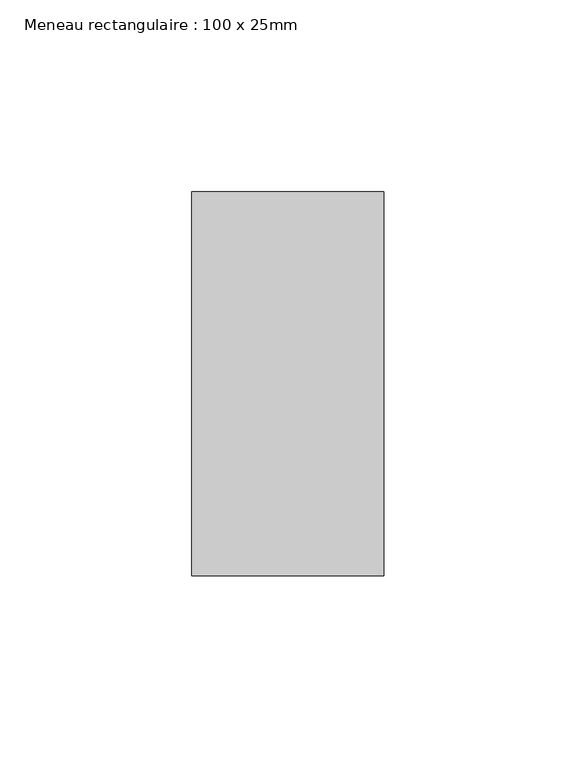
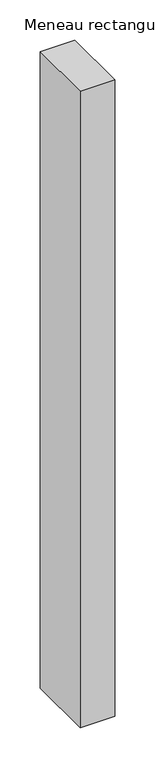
"""IFC4 building model written with IfcOpenShell, lengths in millimetres: member geometry, Meneau rectangulaire : 100 x 25mm."""

from ifc_helpers import new_model, si_unit, frame, origin, place, context, project, spatial, polyline, outline, extrude, source, transform, mapped, element, save


def meneau_rectangulaire_100_x_25mm_93c40c7f(model_context):
    return source(origin(), model_context, "Body", "SweptSolid", [
        extrude(outline(polyline([(0.0, 50.0), (0.0, -50.0), (-50.0, -50.0), (-50.0, 50.0), (0.0, 50.0)])), frame((0.0, 0.0, -970.9537802), z_axis=(0.0, 0.0, 1.0), x_axis=(1.0, 0.0, 0.0)), (0.0, 0.0, 1.0), 970.9537802),
    ])


if __name__ == "__main__":
    model = new_model("IFC4")
    model_context = context("Model", 3, world=origin())
    ifc_project = project(units=[si_unit("LENGTHUNIT", "METRE", prefix="MILLI")], contexts=[model_context])
    site = spatial("IfcSite", under=ifc_project)
    building = spatial("IfcBuilding", under=site)
    placement = place(None, origin())
    meneau_rectangulaire_100_x_25mm_shape = meneau_rectangulaire_100_x_25mm_93c40c7f(model_context)
    element("IfcMember", 1, ObjectType="Meneau rectangulaire : 100 x 25mm", at=placement, inside=building, context=model_context, shape_type="MappedRepresentation", body=[
        mapped(meneau_rectangulaire_100_x_25mm_shape, transform((0.0, 0.0, 0.0), x_axis=(1.0, 0.0, 0.0), y_axis=(0.0, 1.0, 0.0), z_axis=(0.0, 0.0, 1.0))),
    ])
    save(model, "model.ifc")
